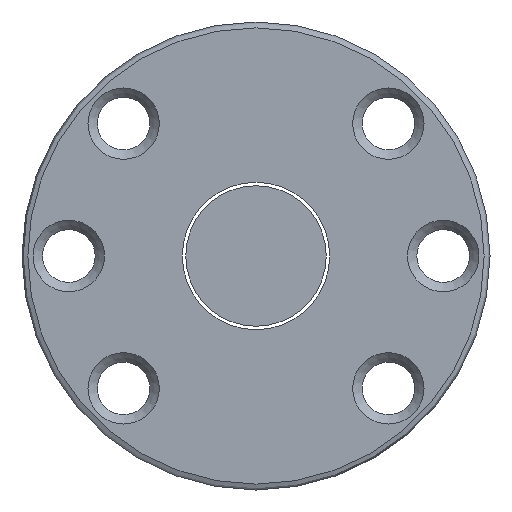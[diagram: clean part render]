
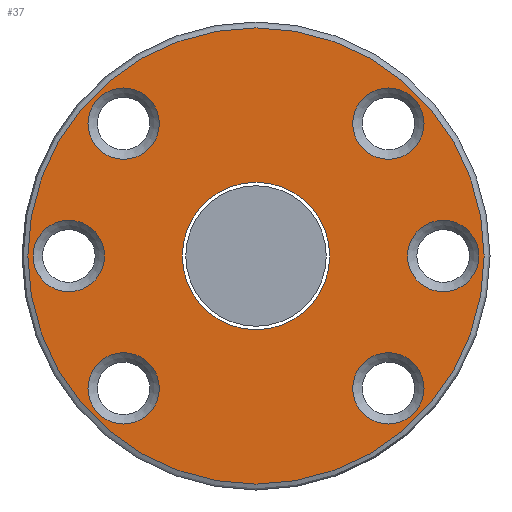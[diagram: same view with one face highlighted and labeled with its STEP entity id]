
A CAD part, left-side view. The second image highlights one B-rep face of the part: STEP entity #37.
In plain terms, the highlighted planar face has unit normal (-1, 0, 0).
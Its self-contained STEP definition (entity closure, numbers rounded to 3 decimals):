
#35 = EDGE_LOOP ( 'NONE', ( #82 ) ) ;
#37 = ADVANCED_FACE ( 'NONE', ( #626, #194, #714, #655, #643, #759, #246, #660 ), #470, .T. ) ;
#46 = DIRECTION ( 'NONE',  ( 0., 0., 1. ) ) ;
#49 = VERTEX_POINT ( 'NONE', #591 ) ;
#54 = DIRECTION ( 'NONE',  ( 0., 0., 1. ) ) ;
#55 = EDGE_LOOP ( 'NONE', ( #606 ) ) ;
#60 = VERTEX_POINT ( 'NONE', #418 ) ;
#61 = DIRECTION ( 'NONE',  ( 0., 0., 1. ) ) ;
#63 = EDGE_CURVE ( 'NONE', #453, #453, #673, .T. ) ;
#75 = CIRCLE ( 'NONE', #707, 3.05 ) ;
#77 = CARTESIAN_POINT ( 'NONE',  ( -40., -11.314, -8.264 ) ) ;
#80 = VERTEX_POINT ( 'NONE', #304 ) ;
#82 = ORIENTED_EDGE ( 'NONE', *, *, #178, .T. ) ;
#104 = DIRECTION ( 'NONE',  ( 0., 0., 1. ) ) ;
#129 = EDGE_LOOP ( 'NONE', ( #334 ) ) ;
#142 = DIRECTION ( 'NONE',  ( -1., 0., 0. ) ) ;
#145 = EDGE_CURVE ( 'NONE', #49, #49, #75, .T. ) ;
#160 = DIRECTION ( 'NONE',  ( 1., 0., 0. ) ) ;
#172 = DIRECTION ( 'NONE',  ( 1., 0., 0. ) ) ;
#178 = EDGE_CURVE ( 'NONE', #80, #80, #378, .T. ) ;
#179 = VERTEX_POINT ( 'NONE', #77 ) ;
#194 = FACE_BOUND ( 'NONE', #35, .T. ) ;
#195 = CARTESIAN_POINT ( 'NONE',  ( -40., -11.314, 11.314 ) ) ;
#199 = DIRECTION ( 'NONE',  ( 1., 0., 0. ) ) ;
#232 = CARTESIAN_POINT ( 'NONE',  ( -40., -11.314, -11.314 ) ) ;
#240 = ORIENTED_EDGE ( 'NONE', *, *, #145, .T. ) ;
#246 = FACE_BOUND ( 'NONE', #129, .T. ) ;
#255 = VERTEX_POINT ( 'NONE', #362 ) ;
#267 = CARTESIAN_POINT ( 'NONE',  ( -40., 0., 0. ) ) ;
#272 = EDGE_CURVE ( 'NONE', #600, #600, #411, .T. ) ;
#275 = DIRECTION ( 'NONE',  ( 1., 0., 0. ) ) ;
#304 = CARTESIAN_POINT ( 'NONE',  ( -40., 11.314, -8.264 ) ) ;
#318 = DIRECTION ( 'NONE',  ( 0., 0., 1. ) ) ;
#334 = ORIENTED_EDGE ( 'NONE', *, *, #542, .T. ) ;
#352 = ORIENTED_EDGE ( 'NONE', *, *, #571, .T. ) ;
#357 = EDGE_LOOP ( 'NONE', ( #735 ) ) ;
#362 = CARTESIAN_POINT ( 'NONE',  ( -40., 0., 19.5 ) ) ;
#378 = CIRCLE ( 'NONE', #400, 3.05 ) ;
#382 = EDGE_LOOP ( 'NONE', ( #352 ) ) ;
#391 = DIRECTION ( 'NONE',  ( 0., 0., 1. ) ) ;
#400 = AXIS2_PLACEMENT_3D ( 'NONE', #754, #172, #46 ) ;
#411 = CIRCLE ( 'NONE', #427, 3.05 ) ;
#412 = EDGE_CURVE ( 'NONE', #478, #478, #695, .T. ) ;
#415 = CIRCLE ( 'NONE', #696, 19.5 ) ;
#418 = CARTESIAN_POINT ( 'NONE',  ( -40., 16., 3.05 ) ) ;
#427 = AXIS2_PLACEMENT_3D ( 'NONE', #635, #640, #104 ) ;
#446 = AXIS2_PLACEMENT_3D ( 'NONE', #554, #275, #495 ) ;
#452 = CARTESIAN_POINT ( 'NONE',  ( -40., 0., 0. ) ) ;
#453 = VERTEX_POINT ( 'NONE', #688 ) ;
#458 = CARTESIAN_POINT ( 'NONE',  ( -40., 11.314, 11.314 ) ) ;
#460 = AXIS2_PLACEMENT_3D ( 'NONE', #195, #199, #318 ) ;
#461 = AXIS2_PLACEMENT_3D ( 'NONE', #232, #160, #391 ) ;
#469 = CARTESIAN_POINT ( 'NONE',  ( -40., -11.314, 14.364 ) ) ;
#470 = PLANE ( 'NONE',  #721 ) ;
#472 = EDGE_LOOP ( 'NONE', ( #240 ) ) ;
#478 = VERTEX_POINT ( 'NONE', #469 ) ;
#495 = DIRECTION ( 'NONE',  ( 0., 0., 1. ) ) ;
#519 = DIRECTION ( 'NONE',  ( 0., 0., -1. ) ) ;
#535 = CARTESIAN_POINT ( 'NONE',  ( -40., -16., 3.05 ) ) ;
#542 = EDGE_CURVE ( 'NONE', #60, #60, #708, .T. ) ;
#554 = CARTESIAN_POINT ( 'NONE',  ( -40., 16., 0. ) ) ;
#571 = EDGE_CURVE ( 'NONE', #255, #255, #415, .T. ) ;
#577 = DIRECTION ( 'NONE',  ( 1., 0., 0. ) ) ;
#587 = DIRECTION ( 'NONE',  ( -1., 0., 0. ) ) ;
#591 = CARTESIAN_POINT ( 'NONE',  ( -40., 11.314, 14.364 ) ) ;
#600 = VERTEX_POINT ( 'NONE', #535 ) ;
#606 = ORIENTED_EDGE ( 'NONE', *, *, #753, .T. ) ;
#626 = FACE_OUTER_BOUND ( 'NONE', #382, .T. ) ;
#632 = DIRECTION ( 'NONE',  ( 1., 0., 0. ) ) ;
#635 = CARTESIAN_POINT ( 'NONE',  ( -40., -16., 0. ) ) ;
#640 = DIRECTION ( 'NONE',  ( 1., 0., 0. ) ) ;
#641 = EDGE_LOOP ( 'NONE', ( #703 ) ) ;
#643 = FACE_BOUND ( 'NONE', #641, .T. ) ;
#655 = FACE_BOUND ( 'NONE', #755, .T. ) ;
#660 = FACE_BOUND ( 'NONE', #357, .T. ) ;
#668 = DIRECTION ( 'NONE',  ( 0., 0., 1. ) ) ;
#673 = CIRCLE ( 'NONE', #730, 6.3 ) ;
#688 = CARTESIAN_POINT ( 'NONE',  ( -40., 0., -6.3 ) ) ;
#695 = CIRCLE ( 'NONE', #460, 3.05 ) ;
#696 = AXIS2_PLACEMENT_3D ( 'NONE', #267, #142, #668 ) ;
#701 = CARTESIAN_POINT ( 'NONE',  ( -40., 20., 0. ) ) ;
#703 = ORIENTED_EDGE ( 'NONE', *, *, #412, .T. ) ;
#707 = AXIS2_PLACEMENT_3D ( 'NONE', #458, #577, #54 ) ;
#708 = CIRCLE ( 'NONE', #446, 3.05 ) ;
#714 = FACE_BOUND ( 'NONE', #55, .T. ) ;
#719 = ORIENTED_EDGE ( 'NONE', *, *, #272, .T. ) ;
#721 = AXIS2_PLACEMENT_3D ( 'NONE', #701, #587, #61 ) ;
#730 = AXIS2_PLACEMENT_3D ( 'NONE', #452, #632, #519 ) ;
#734 = CIRCLE ( 'NONE', #461, 3.05 ) ;
#735 = ORIENTED_EDGE ( 'NONE', *, *, #63, .T. ) ;
#753 = EDGE_CURVE ( 'NONE', #179, #179, #734, .T. ) ;
#754 = CARTESIAN_POINT ( 'NONE',  ( -40., 11.314, -11.314 ) ) ;
#755 = EDGE_LOOP ( 'NONE', ( #719 ) ) ;
#759 = FACE_BOUND ( 'NONE', #472, .T. ) ;
